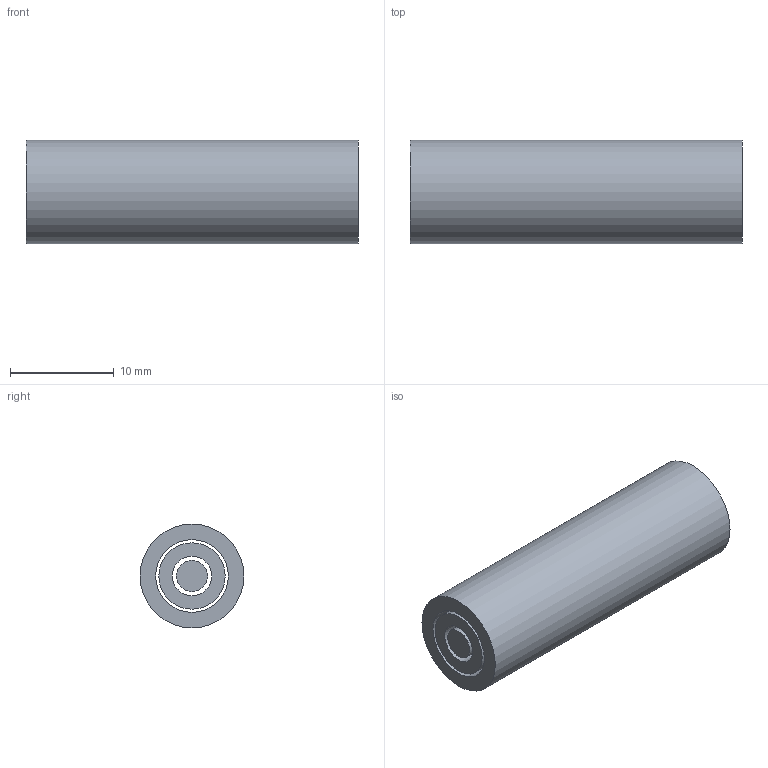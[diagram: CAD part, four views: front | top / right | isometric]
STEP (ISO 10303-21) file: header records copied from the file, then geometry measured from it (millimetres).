
FILE_DESCRIPTION(('Open CASCADE Model'),'2;1');
FILE_NAME('Open CASCADE Shape Model','2026-11-25T11:43:05',('Author'),( 'Open CASCADE'),'Open CASCADE STEP processor 8.0','Open CASCADE 8.0' ,'Unknown');
FILE_SCHEMA(('AP242_MANAGED_MODEL_BASED_3D_ENGINEERING_MIM_LF {1 0 10303 442 1 1 4 }' ));
Length unit declared in the file: millimetre
Products named in the file (3): Guide tube; Cam ring; Plunger
Bounding box: 32 x 10 x 10 mm (x, y, z)
Volume: 1611.4 mm3; surface area: 2314.3 mm2
Topology: 3 solids, 3 shells, 11 faces, 15 edges, 10 vertices
Faces by surface type: plane 6, cylinder 5
Full cylindrical faces by diameter (mm): 3 x1, 3.8 x1, 6.4 x1, 7 x1, 10 x1
Entity records: 493 total; most frequent: DIRECTION 79, CARTESIAN_POINT 67, ORIENTED_EDGE 30, PCURVE 30, DEFINITIONAL_REPRESENTATION 30, LINE 25, VECTOR 25, AXIS2_PLACEMENT_3D 22
